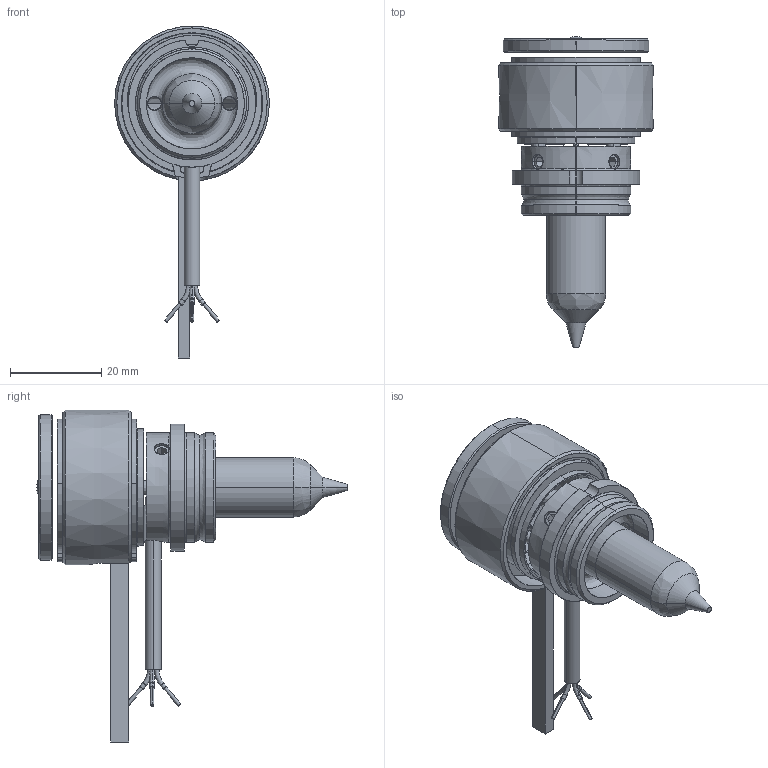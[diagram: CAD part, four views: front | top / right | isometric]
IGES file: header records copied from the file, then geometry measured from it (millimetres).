
Start section: SolidWorks IGES file using analytic representation for surfaces
Global section: file name: C:\Documents and Settings\ws-20\Desktop\TEM\UGGS2510-S-0 [Øf-1.30].IGS; native system: SolidWorks 2012; preprocessor: SolidWorks 2012; author: ws-20; date: 120516.092724; units: millimetre
Bounding box: 34 x 68.3 x 72.9 mm (x, y, z)
Surface area: 15953.7 mm2 (no closed solid volume)
Topology: 0 solids, 0 shells, 209 faces, 2975 edges, 2969 vertices
Faces by surface type: revolution 129, bspline 80
